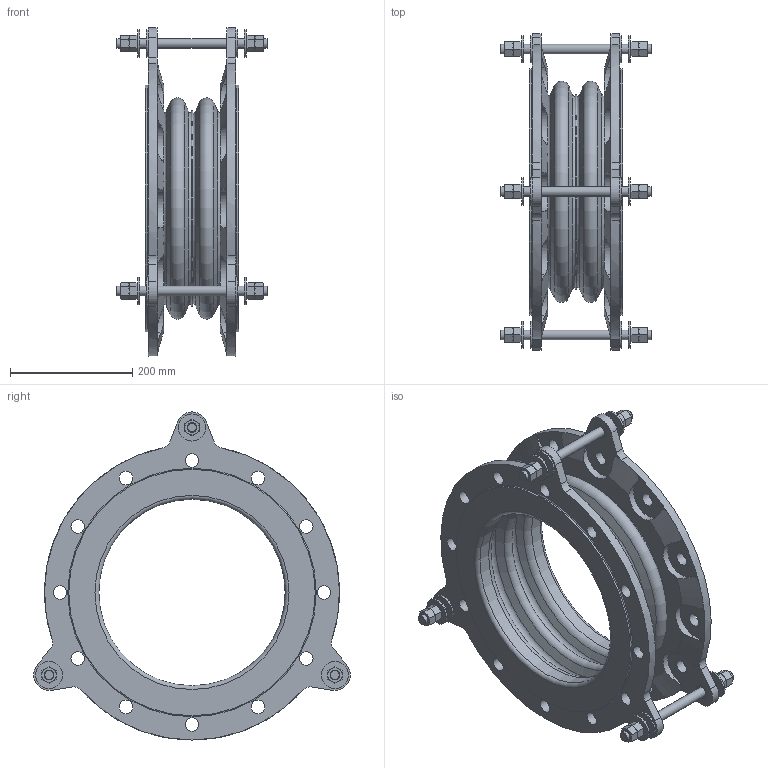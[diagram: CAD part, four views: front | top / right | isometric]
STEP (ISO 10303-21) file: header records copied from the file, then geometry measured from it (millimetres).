
FILE_DESCRIPTION(/* description */ (''),/* implementation_level */ '2;1');
FILE_NAME(/* name */ 'C:\Users\rramoutar\Desktop\802\802 12IDx6FF.stp',/* time_stamp */ '2016-04-24T12:13:11-04:00',/* author */ ('rramoutar'),/* organization */ ('Mason Industries Inc.'),/* preprocessor_version */ 'ST-DEVELOPER v15.6',/* originating_system */ 'Autodesk Inventor 2015',/* authorisation */ '');
FILE_SCHEMA (('CONFIG_CONTROL_DESIGN'));
Length unit declared in the file: inch
Products named in the file (1): 802 12IDx6FF
Bounding box: 247.65 x 518.24 x 536.58 mm (x, y, z)
Volume: 5731700.5 mm3; surface area: 1124662.9 mm2
Topology: 5 solids, 41 shells, 780 faces, 1697 edges, 1045 vertices
Faces by surface type: plane 284, cone 266, cylinder 209, torus 21
Full cylindrical faces by diameter (mm): 15.875 x9, 17.462 x6, 19.447 x6, 22.225 x24, 25.003 x6, 25.4 x6, 44.45 x12, 304.8 x2, 311.15 x2, 312.737 x2, 403.225 x2
Entity records: 21336 total; most frequent: CARTESIAN_POINT 5044, DIRECTION 3318, ORIENTED_EDGE 3112, EDGE_CURVE 1556, AXIS2_PLACEMENT_3D 1413, VERTEX_POINT 1027, EDGE_LOOP 1013, FACE_OUTER_BOUND 780
